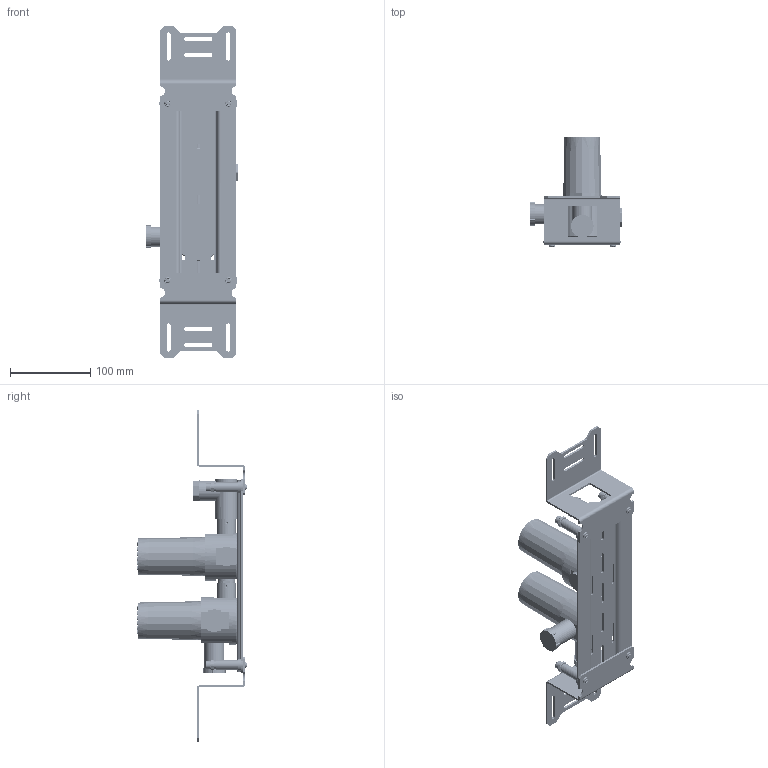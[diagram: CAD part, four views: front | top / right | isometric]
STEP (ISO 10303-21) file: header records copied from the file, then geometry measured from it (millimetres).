
FILE_DESCRIPTION((''),'2;1');
FILE_NAME('MSBY0030-XX_ASM_ASM','2019-11-07T',('Administrator'),(''),'PRO/ENGINEER BY PARAMETRIC TECHNOLOGY CORPORATION, 2010370','PRO/ENGINEER BY PARAMETRIC TECHNOLOGY CORPORATION, 2010370','');
FILE_SCHEMA(('CONFIG_CONTROL_DESIGN'));
Products named in the file (61): STCT0176-XX_39; STCT0175-XX_14; STMB0313-XX_6; STST0094-XX_4; MSBY0030-XX_ASM_28_ASM; P027001_12; P027002_10; BREP_WITH_VOIDS_5518; MANIFOLD_SOLID_BREP_8494; V001083_13_ASM; V010006_3; P027013_30; V017008_4; V017001_3; P027009_26; V012003_2; P027003_28; P027008_17; MANIFOLD_SOLID_BREP_18748; MANIFOLD_SOLID_BREP_18854; V020004_2_ASM; V033004_1; 200338-0_10_1; 200348-1_15_1; 200355-1_4_1; 200344-21_6_1; 30491-P11_7_1; 8592_3_1; 31054-_7_1; 31055-1_4_1; 1178_3_1; 8605_COMPRIME_2_1; 935-P1_ASM_9_ASM_1_ASM; 200347-P3_7_1; GRILLECA189-0_7_1; 200340-0_6_1; 200342-0_4_1; 200346-0_AF0_1_1; 200350-0CARTOUCHE_6_1; 200349-0CARTOUCHE_3_1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
Assembly tree (86 placements, depth 6):
  MSBY0030-XX_ASM_ASM
    MSBY0030-XX_ASM_28_ASM
      STCT0176-XX_39
      STCT0175-XX_14  x2
      STMB0313-XX_6  x4
      STST0094-XX_4  x4
    BOX03-B_ASM_ASM
      0271003_ASM_43_ASM
        P027001_12
        P027002_10
        V001083_13_ASM
          BREP_WITH_VOIDS_5518
          MANIFOLD_SOLID_BREP_8494
        V010006_3
        P027013_30
        V017008_4  x7
        V017001_3  x4
        P027009_26  x2
        V012003_2  x4
        P027003_28
        P027008_17  x2
        V020004_2_ASM  x2
          MANIFOLD_SOLID_BREP_18748
          MANIFOLD_SOLID_BREP_18854
        V033004_1  x2
        V001082_ASM_28_ASM
          200338-0_10_1
          200348-1_15_1
          200355-1_4_1
          200344-21_6_1
          935-P1_ASM_9_ASM_1_ASM
            30491-P11_7_1
            8592_3_1
            31054-_7_1
            31055-1_4_1
            1178_3_1
            8605_COMPRIME_2_1
          200347-P3_7_1
          GRILLECA189-0_7_1  x2
          200340-0_6_1
          200342-0_4_1
          200346-0_AF0_1_1
          200350-0CARTOUCHE_6_1
          200349-0CARTOUCHE_3_1
          200349-0APPUI_2_1
        P027004_15
        P027007_20
        P027010_36
        P027011_37
        V017002_6
        V029051_2  x2
        P027006_14
        P026103_20
        V039119_4
        P024066_21
        V039114_3
        V024007_1  x2
        V024033_5
        V024034_4
      PRT0001
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Bounding box: 115.52 x 136.5 x 413 mm (x, y, z)
Volume: 586068.5 mm3; surface area: 349861.3 mm2
Topology: 80 solids, 113 shells, 3975 faces, 11099 edges, 7449 vertices
Faces by surface type: plane 2054, cylinder 1117, cone 373, torus 272, bspline 145, revolution 12, sphere 2
Entity records: 145020 total; most frequent: CARTESIAN_POINT 55123, ORIENTED_EDGE 18858, DIRECTION 18455, EDGE_CURVE 9475, AXIS2_PLACEMENT_3D 6600, VERTEX_POINT 6370, VECTOR 5243, LINE 5243
